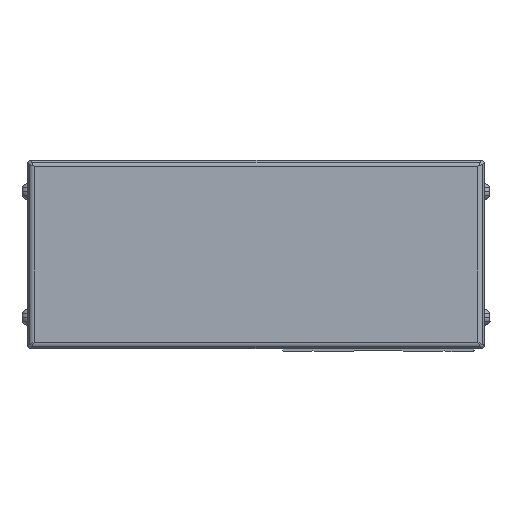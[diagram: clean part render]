
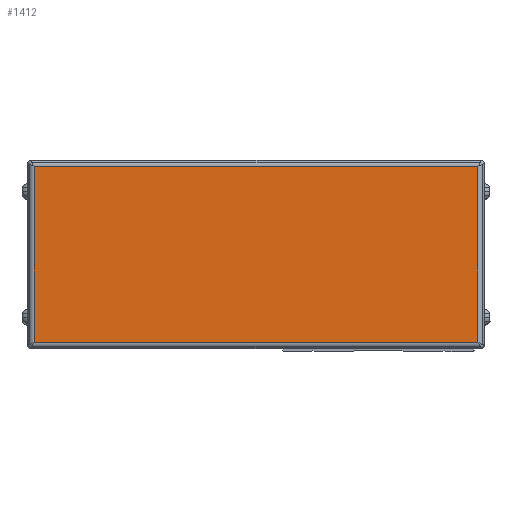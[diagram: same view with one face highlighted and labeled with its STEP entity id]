
A CAD part, left-side view. The second image highlights one B-rep face of the part: STEP entity #1412.
In plain terms, the highlighted planar face has unit normal (-1, 0, 0).
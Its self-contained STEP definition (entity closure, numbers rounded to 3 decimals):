
#1412=ADVANCED_FACE('',(#3244),#3245,.F.);
#3244=FACE_OUTER_BOUND('',#7297,.T.);
#3245=PLANE('',#7298);
#7297=EDGE_LOOP('',(#13050,#13051,#13052,#13053));
#7298=AXIS2_PLACEMENT_3D('',#13054,#13055,#13056);
#13050=ORIENTED_EDGE('',*,*,#27230,.T.);
#13051=ORIENTED_EDGE('',*,*,#27234,.T.);
#13052=ORIENTED_EDGE('',*,*,#27238,.T.);
#13053=ORIENTED_EDGE('',*,*,#27239,.T.);
#13054=CARTESIAN_POINT('',(-54.0,39.,-1.));
#13055=DIRECTION('',(1.0,0.,0.));
#13056=DIRECTION('',(0.,0.,1.0));
#27230=EDGE_CURVE('',#31850,#31854,#31858,.T.);
#27234=EDGE_CURVE('',#31854,#31859,#31863,.T.);
#27238=EDGE_CURVE('',#31859,#31864,#31868,.T.);
#27239=EDGE_CURVE('',#31864,#31850,#31869,.T.);
#31850=VERTEX_POINT('',#39410);
#31854=VERTEX_POINT('',#39414);
#31858=LINE('',#39418,#39419);
#31859=VERTEX_POINT('',#39420);
#31863=LINE('',#39424,#39425);
#31864=VERTEX_POINT('',#39426);
#31868=LINE('',#39430,#39431);
#31869=LINE('',#39432,#39433);
#39410=CARTESIAN_POINT('',(-54.,-31.7,27.));
#39414=CARTESIAN_POINT('',(-54.,109.7,27.));
#39418=CARTESIAN_POINT('',(-54.,39.,27.));
#39419=VECTOR('',#50767,10.0);
#39420=CARTESIAN_POINT('',(-54.,109.7,-29.));
#39424=CARTESIAN_POINT('',(-54.,109.7,-1.));
#39425=VECTOR('',#50777,10.0);
#39426=CARTESIAN_POINT('',(-54.,-31.7,-29.));
#39430=CARTESIAN_POINT('',(-54.,39.,-29.));
#39431=VECTOR('',#50787,10.0);
#39432=CARTESIAN_POINT('',(-54.,-31.7,-1.));
#39433=VECTOR('',#50788,10.0);
#50767=DIRECTION('',(0.,1.0,0.));
#50777=DIRECTION('',(0.,0.,-1.0));
#50787=DIRECTION('',(0.,-1.0,0.));
#50788=DIRECTION('',(0.,0.,1.0));
